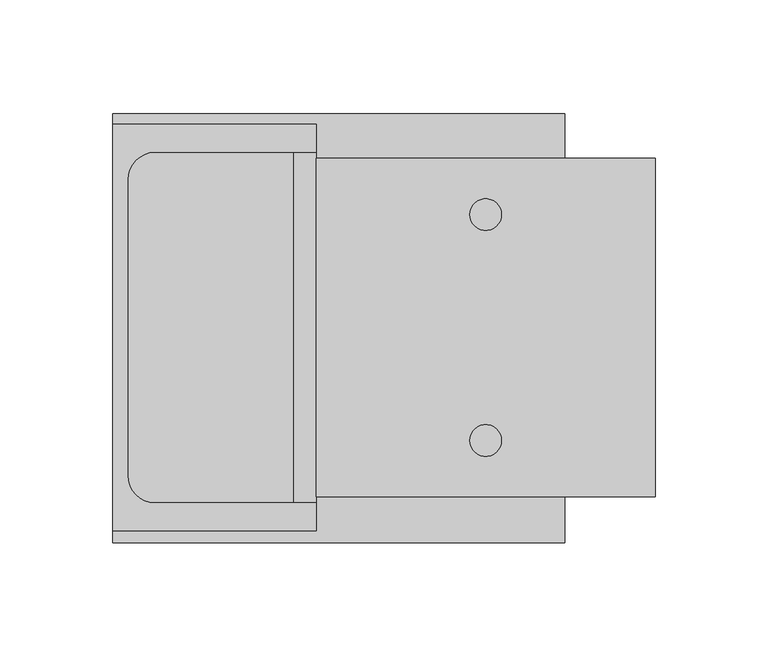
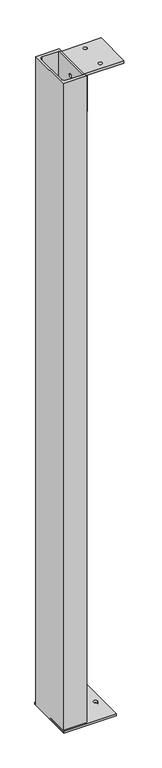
"""IFC4 building model written with IfcOpenShell, lengths in millimetres: column geometry, UKPFC-Parallel Flange Channels-Column_Connections : UKPFC180x90x26."""

from ifc_helpers import new_model, si_unit, point, frame, frame_2d, origin, place, context, project, spatial, polyline, circle_curve, trimmed, segment, composite_curve, outline, extrude, source, transform, mapped, element, save
from ifc_brep_helpers import plane_surface, revolved_surface, advanced_brep


def column_e0824547(model_context):
    return source(origin(), model_context, "Body", "SolidModel", [
        extrude(outline(composite_curve([segment(polyline([(58.3, 90.0), (58.3, 77.5), (-13.2, 77.5)]), True, "CONTINUOUS"), segment(trimmed(circle_curve(frame_2d((-13.2, 65.5)), 12.0), [point((-13.2, 77.5))], [point((-25.2, 65.5))], True, "CARTESIAN"), True, "CONTINUOUS"), segment(polyline([(-25.2, 65.5), (-25.2, -65.5)]), True, "CONTINUOUS"), segment(trimmed(circle_curve(frame_2d((-13.2, -65.5)), 12.0), [point((-25.2, -65.5))], [point((-13.2, -77.5))], True, "CARTESIAN"), True, "CONTINUOUS"), segment(polyline([(-13.2, -77.5), (58.3, -77.5), (58.3, -90.0), (-31.7, -90.0), (-31.7, 90.0), (58.3, 90.0)]), True, "CONTINUOUS")], self_intersect=False)), frame((0.0, 0.0, 242.0), z_axis=(0.0, 0.0, 1.0), x_axis=(1.0, 0.0, 0.0)), (0.0, 0.0, 1.0), 2605.0),
        advanced_brep(
        [(68.3, -75.0, 2837.0), (68.3, -75.0, 2692.0), (68.3, 75.0, 2692.0), (68.3, 75.0, 2837.0), (68.3, -7.0, 2797.0), (68.3, 7.0, 2797.0), (68.3, -7.0, 2742.0), (68.3, 7.0, 2742.0), (58.3, -75.0, 2692.0), (58.3, 75.0, 2692.0), (58.3, -7.0, 2797.0), (58.3, 7.0, 2797.0), (58.3, -7.0, 2742.0), (58.3, 7.0, 2742.0), (208.3, 75.0, 2847.0), (58.3, 75.0, 2847.0), (58.3, -75.0, 2847.0), (208.3, -75.0, 2847.0), (126.3, 50.0, 2847.0), (140.3, 50.0, 2847.0), (126.3, -50.0, 2847.0), (140.3, -50.0, 2847.0), (208.3, 75.0, 2837.0), (208.3, -75.0, 2837.0), (126.3, 50.0, 2837.0), (140.3, 50.0, 2837.0), (126.3, -50.0, 2837.0), (140.3, -50.0, 2837.0)],
        [
            (0, 1),
            (1, 2),
            (2, 3),
            (3, 0),
            (4, 5, circle_curve(frame((68.3, 0.0, 2797.0), z_axis=(-1.0, 0.0, 0.0), x_axis=(0.0, 1.0, 0.0)), 7.0)),
            (5, 4, circle_curve(frame((68.3, 0.0, 2797.0), z_axis=(-1.0, 0.0, 0.0), x_axis=(0.0, 1.0, 0.0)), 7.0)),
            (6, 7, circle_curve(frame((68.3, 0.0, 2742.0), z_axis=(-1.0, 0.0, 0.0), x_axis=(0.0, 1.0, 0.0)), 7.0)),
            (7, 6, circle_curve(frame((68.3, 0.0, 2742.0), z_axis=(-1.0, 0.0, 0.0), x_axis=(0.0, 1.0, 0.0)), 7.0)),
            (1, 8),
            (8, 9),
            (9, 2),
            (4, 10),
            (10, 11, circle_curve(frame((58.3, 0.0, 2797.0), z_axis=(-1.0, 0.0, 0.0), x_axis=(0.0, 1.0, 0.0)), 7.0)),
            (11, 5),
            (11, 10, circle_curve(frame((58.3, 0.0, 2797.0), z_axis=(-1.0, 0.0, 0.0), x_axis=(0.0, 1.0, 0.0)), 7.0)),
            (6, 12),
            (12, 13, circle_curve(frame((58.3, 0.0, 2742.0), z_axis=(-1.0, 0.0, 0.0), x_axis=(0.0, 1.0, 0.0)), 7.0)),
            (13, 7),
            (13, 12, circle_curve(frame((58.3, 0.0, 2742.0), z_axis=(-1.0, 0.0, 0.0), x_axis=(0.0, 1.0, 0.0)), 7.0)),
            (14, 15),
            (15, 16),
            (16, 17),
            (17, 14),
            (18, 19, circle_curve(frame((133.3, 50.0, 2847.0), z_axis=(0.0, 0.0, -1.0), x_axis=(1.0, 0.0, 0.0)), 7.0)),
            (19, 18, circle_curve(frame((133.3, 50.0, 2847.0), z_axis=(0.0, 0.0, -1.0), x_axis=(1.0, 0.0, 0.0)), 7.0)),
            (20, 21, circle_curve(frame((133.3, -50.0, 2847.0), z_axis=(0.0, 0.0, -1.0), x_axis=(1.0, 0.0, 0.0)), 7.0)),
            (21, 20, circle_curve(frame((133.3, -50.0, 2847.0), z_axis=(0.0, 0.0, -1.0), x_axis=(1.0, 0.0, 0.0)), 7.0)),
            (22, 23),
            (23, 0),
            (3, 22),
            (24, 25, circle_curve(frame((133.3, 50.0, 2837.0), z_axis=(0.0, 0.0, 1.0), x_axis=(1.0, 0.0, 0.0)), 7.0)),
            (25, 24, circle_curve(frame((133.3, 50.0, 2837.0), z_axis=(0.0, 0.0, 1.0), x_axis=(1.0, 0.0, 0.0)), 7.0)),
            (26, 27, circle_curve(frame((133.3, -50.0, 2837.0), z_axis=(0.0, 0.0, 1.0), x_axis=(1.0, 0.0, 0.0)), 7.0)),
            (27, 26, circle_curve(frame((133.3, -50.0, 2837.0), z_axis=(0.0, 0.0, 1.0), x_axis=(1.0, 0.0, 0.0)), 7.0)),
            (14, 22),
            (9, 15),
            (8, 16),
            (23, 17),
            (18, 24),
            (25, 19),
            (20, 26),
            (27, 21),
        ],
        [
            plane_surface(frame((68.3, -75.0, 2837.0), z_axis=(1.0, 0.0, 0.0), x_axis=(0.0, 0.0, -1.0))),
            plane_surface(frame((68.3, -75.0, 2692.0), z_axis=(0.0, 0.0, -1.0), x_axis=(-1.0, 0.0, 0.0))),
            revolved_surface(polyline([(58.3, 7.0, 2797.0), (68.3, 7.0, 2797.0)]), (10.0, 0.0, 2797.0), (-1.0, 0.0, 0.0)),
            revolved_surface(polyline([(58.3, 7.0, 2742.0), (68.3, 7.0, 2742.0)]), (10.0, 0.0, 2742.0), (-1.0, 0.0, 0.0)),
            plane_surface(frame((8.3, 75.0, 2847.0), z_axis=(0.0, 0.0, 1.0), x_axis=(-1.0, 0.0, 0.0))),
            plane_surface(frame((8.3, 75.0, 2837.0), z_axis=(0.0, 0.0, -1.0), x_axis=(1.0, 0.0, 0.0))),
            plane_surface(frame((208.3, 75.0, 2847.0), z_axis=(0.0, 1.0, 0.0), x_axis=(0.0, 0.0, -1.0))),
            plane_surface(frame((58.3, 75.0, 2847.0), z_axis=(-1.0, 0.0, 0.0), x_axis=(0.0, 0.0, -1.0))),
            plane_surface(frame((58.3, -75.0, 2847.0), z_axis=(0.0, -1.0, 0.0), x_axis=(0.0, 0.0, -1.0))),
            plane_surface(frame((208.3, -75.0, 2847.0), z_axis=(1.0, 0.0, 0.0), x_axis=(0.0, 0.0, -1.0))),
            revolved_surface(polyline([(140.3, 50.0, 2837.0), (140.3, 50.0, 2847.0)]), (133.3, 50.0, 2490.0), (0.0, 0.0, -1.0)),
            revolved_surface(polyline([(140.3, -50.0, 2837.0), (140.3, -50.0, 2847.0)]), (133.3, -50.0, 2490.0), (0.0, 0.0, -1.0)),
        ],
        [
            (0, [[1, 2, 3, 4], [5, 6], [7, 8]]),
            (1, [[-2, 9, 10, 11]]),
            (2, [[-5, 12, 13, 14]]),
            (2, [[-6, -14, 15, -12]]),
            (3, [[-7, 16, 17, 18]]),
            (3, [[-8, -18, 19, -16]]),
            (4, [[20, 21, 22, 23], [24, 25], [26, 27]]),
            (5, [[28, 29, -4, 30], [31, 32], [33, 34]]),
            (6, [[-20, 35, -30, -3, -11, 36]]),
            (7, [[-21, -36, -10, 37], [-15, -13], [-19, -17]]),
            (8, [[-22, -37, -9, -1, -29, 38]]),
            (9, [[-23, -38, -28, -35]]),
            (10, [[-24, 39, -32, 40]]),
            (10, [[-25, -40, -31, -39]]),
            (11, [[-26, 41, -34, 42]]),
            (11, [[-27, -42, -33, -41]]),
        ],
    ),
        extrude(outline(polyline([(-77.5, 2847.0), (77.5, 2847.0), (77.5, 2692.0), (-77.5, 2692.0), (-77.5, 2847.0)]), holes=[composite_curve([segment(trimmed(circle_curve(frame_2d((0.0, 2797.0)), 7.0), [point((-7.0, 2797.0))], [point((7.0, 2797.0))], True, "CARTESIAN"), True, "CONTINUOUS"), segment(trimmed(circle_curve(frame_2d((0.0, 2797.0)), 7.0), [point((7.0, 2797.0))], [point((-7.0, 2797.0))], True, "CARTESIAN"), True, "CONTINUOUS")], self_intersect=False), composite_curve([segment(trimmed(circle_curve(frame_2d((0.0, 2742.0)), 7.0), [point((-7.0, 2742.0))], [point((7.0, 2742.0))], True, "CARTESIAN"), True, "CONTINUOUS"), segment(trimmed(circle_curve(frame_2d((0.0, 2742.0)), 7.0), [point((7.0, 2742.0))], [point((-7.0, 2742.0))], True, "CARTESIAN"), True, "CONTINUOUS")], self_intersect=False)]), frame((48.3, 0.0, 0.0), z_axis=(1.0, 0.0, 0.0), x_axis=(0.0, 1.0, 0.0)), (0.0, 0.0, 1.0), 10.0),
        extrude(outline(polyline([(168.3, 95.0), (168.3, -94.8296291), (-31.7, -94.8296291), (-31.7, 95.0), (168.3, 95.0)]), holes=[composite_curve([segment(trimmed(circle_curve(frame_2d((68.3, 0.0)), 7.0), [point((61.3, 0.0))], [point((75.3, 0.0))], True, "CARTESIAN"), True, "CONTINUOUS"), segment(trimmed(circle_curve(frame_2d((68.3, 0.0)), 7.0), [point((75.3, 0.0))], [point((61.3, 0.0))], True, "CARTESIAN"), True, "CONTINUOUS")], self_intersect=False), composite_curve([segment(trimmed(circle_curve(frame_2d((143.3, 0.0)), 7.0), [point((136.3, 0.0))], [point((150.3, 0.0))], True, "CARTESIAN"), True, "CONTINUOUS"), segment(trimmed(circle_curve(frame_2d((143.3, 0.0)), 7.0), [point((150.3, 0.0))], [point((136.3, 0.0))], True, "CARTESIAN"), True, "CONTINUOUS")], self_intersect=False)]), frame((0.0, 0.0, 242.0), z_axis=(0.0, 0.0, 1.0), x_axis=(1.0, 0.0, 0.0)), (0.0, 0.0, 1.0), 8.0),
    ])


if __name__ == "__main__":
    model = new_model("IFC4")
    model_context = context("Model", 3, world=origin())
    ifc_project = project(units=[si_unit("LENGTHUNIT", "METRE", prefix="MILLI")], contexts=[model_context])
    site = spatial("IfcSite", under=ifc_project)
    building = spatial("IfcBuilding", under=site)
    placement = place(None, origin())
    column_shape = column_e0824547(model_context)
    element("IfcColumn", 1, ObjectType="UKPFC-Parallel Flange Channels-Column_Connections : UKPFC180x90x26", at=placement, inside=building, context=model_context, shape_type="MappedRepresentation", body=[
        mapped(column_shape, transform((0.0, 0.0, 0.0), x_axis=(1.0, 0.0, 0.0), y_axis=(0.0, 1.0, 0.0), z_axis=(0.0, 0.0, 1.0))),
    ])
    save(model, "model.ifc")
